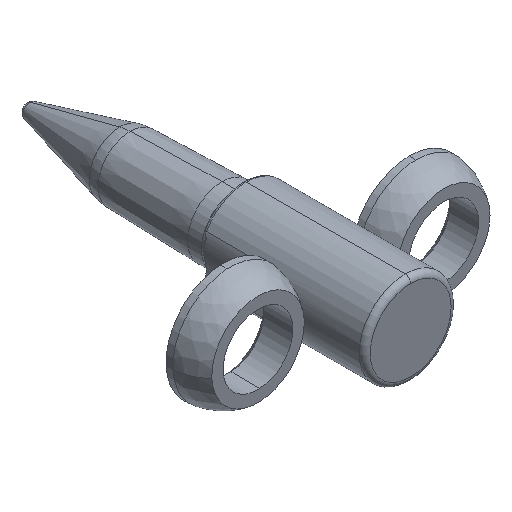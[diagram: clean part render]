
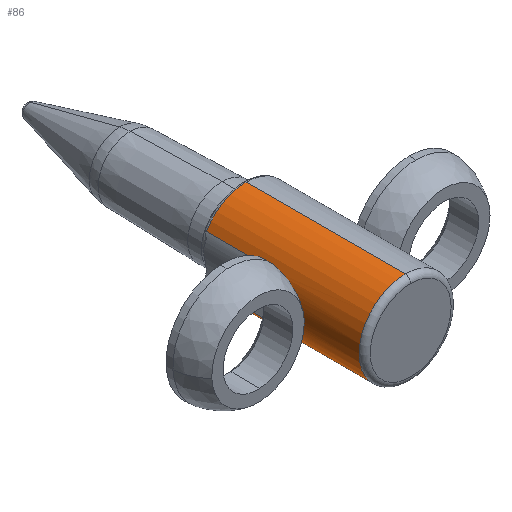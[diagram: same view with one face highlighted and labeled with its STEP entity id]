
A CAD part, isometric view. The second image highlights one B-rep face of the part: STEP entity #86.
In plain terms, the highlighted cylindrical face has radius 6.35 mm (diameter 12.7 mm), a partial arc.
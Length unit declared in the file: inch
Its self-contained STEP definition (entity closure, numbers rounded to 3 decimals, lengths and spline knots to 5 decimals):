
#35 = CYLINDRICAL_SURFACE ( 'NONE', #850, 0.25 ) ;
#40 = ORIENTED_EDGE ( 'NONE', *, *, #1221, .T. ) ;
#52 = CARTESIAN_POINT ( 'NONE',  ( -0.21585, -0.43438, -0.12613 ) ) ;
#84 = CARTESIAN_POINT ( 'NONE',  ( -0.21585, -0.45535, -0.12613 ) ) ;
#86 = ADVANCED_FACE ( 'NONE', ( #639 ), #35, .T. ) ;
#88 = CARTESIAN_POINT ( 'NONE',  ( -0.2344, -0.57139, -0.08721 ) ) ;
#100 = CARTESIAN_POINT ( 'NONE',  ( -0.24934, -0.61822, 0.02078 ) ) ;
#118 = DIRECTION ( 'NONE',  ( 0., 1., 0. ) ) ;
#151 = EDGE_CURVE ( 'NONE', #182, #505, #386, .T. ) ;
#154 = DIRECTION ( 'NONE',  ( 0., 1., 0. ) ) ;
#182 = VERTEX_POINT ( 'NONE', #1128 ) ;
#188 = DIRECTION ( 'NONE',  ( 0., 1., 0. ) ) ;
#193 = CARTESIAN_POINT ( 'NONE',  ( -0.21585, -0.43438, 0.12613 ) ) ;
#196 = CARTESIAN_POINT ( 'NONE',  ( 0., -0.055, 0.25 ) ) ;
#221 = ORIENTED_EDGE ( 'NONE', *, *, #864, .T. ) ;
#258 = DIRECTION ( 'NONE',  ( 0., 0., 1. ) ) ;
#305 = CARTESIAN_POINT ( 'NONE',  ( -0.22089, -0.5064, 0.1171 ) ) ;
#311 = VERTEX_POINT ( 'NONE', #375 ) ;
#320 = CARTESIAN_POINT ( 'NONE',  ( -0.25, -0.62, 0.01054 ) ) ;
#335 = B_SPLINE_CURVE_WITH_KNOTS ( 'NONE', 3,
 ( #1400, #1394, #738, #305, #753, #741, #1067, #1183, #525, #969, #1277, #1404, #626, #100, #320, #963 ),
 .UNSPECIFIED., .F., .F.,
 ( 4, 2, 2, 2, 2, 2, 2, 4 ),
 ( 0., 0.00158, 0.00238, 0.00317, 0.00396, 0.00475, 0.00554, 0.00634 ),
 .UNSPECIFIED. ) ;
#340 = VERTEX_POINT ( 'NONE', #52 ) ;
#375 = CARTESIAN_POINT ( 'NONE',  ( -0.21585, -0.055, -0.12613 ) ) ;
#377 = CARTESIAN_POINT ( 'NONE',  ( -0.25, -0.62, -0.00527 ) ) ;
#386 = LINE ( 'NONE', #532, #484 ) ;
#390 = CARTESIAN_POINT ( 'NONE',  ( -0.22087, -0.50625, -0.11714 ) ) ;
#391 = VECTOR ( 'NONE', #154, 39.37008 ) ;
#395 = CARTESIAN_POINT ( 'NONE',  ( -0.24109, -0.59408, -0.0667 ) ) ;
#409 = VECTOR ( 'NONE', #862, 39.37008 ) ;
#423 = VERTEX_POINT ( 'NONE', #1133 ) ;
#438 = DIRECTION ( 'NONE',  ( 0., 1., 0. ) ) ;
#479 = CARTESIAN_POINT ( 'NONE',  ( -0.2487, -0.61645, -0.0259 ) ) ;
#484 = VECTOR ( 'NONE', #782, 39.37008 ) ;
#499 = CARTESIAN_POINT ( 'NONE',  ( -0.23211, -0.56278, -0.09302 ) ) ;
#505 = VERTEX_POINT ( 'NONE', #193 ) ;
#510 = LINE ( 'NONE', #1172, #409 ) ;
#525 = CARTESIAN_POINT ( 'NONE',  ( -0.23443, -0.57152, 0.08712 ) ) ;
#532 = CARTESIAN_POINT ( 'NONE',  ( -0.21585, -0.16, 0.12613 ) ) ;
#534 = CIRCLE ( 'NONE', #685, 0.25 ) ;
#540 = ORIENTED_EDGE ( 'NONE', *, *, #711, .T. ) ;
#548 = DIRECTION ( 'NONE',  ( 0., 0., 1. ) ) ;
#575 = ORIENTED_EDGE ( 'NONE', *, *, #1007, .T. ) ;
#583 = CARTESIAN_POINT ( 'NONE',  ( -0.25, -0.62, 0. ) ) ;
#588 = ORIENTED_EDGE ( 'NONE', *, *, #151, .T. ) ;
#602 = AXIS2_PLACEMENT_3D ( 'NONE', #1205, #438, #548 ) ;
#611 = CARTESIAN_POINT ( 'NONE',  ( -0.21585, -0.43438, -0.12613 ) ) ;
#626 = CARTESIAN_POINT ( 'NONE',  ( -0.24687, -0.61133, 0.04068 ) ) ;
#639 = FACE_OUTER_BOUND ( 'NONE', #825, .T. ) ;
#646 = LINE ( 'NONE', #1169, #946 ) ;
#671 = CARTESIAN_POINT ( 'NONE',  ( 0., -0.055, 0. ) ) ;
#685 = AXIS2_PLACEMENT_3D ( 'NONE', #822, #816, #1252 ) ;
#700 = CARTESIAN_POINT ( 'NONE',  ( -0.24918, -0.61777, -0.02085 ) ) ;
#711 = EDGE_CURVE ( 'NONE', #311, #976, #1200, .T. ) ;
#727 = CARTESIAN_POINT ( 'NONE',  ( -0.22789, -0.54493, -0.10294 ) ) ;
#735 = CIRCLE ( 'NONE', #602, 0.25 ) ;
#738 = CARTESIAN_POINT ( 'NONE',  ( -0.21717, -0.47606, 0.12396 ) ) ;
#741 = CARTESIAN_POINT ( 'NONE',  ( -0.22594, -0.53575, 0.10707 ) ) ;
#748 = ORIENTED_EDGE ( 'NONE', *, *, #1135, .T. ) ;
#749 = EDGE_CURVE ( 'NONE', #953, #182, #534, .T. ) ;
#753 = CARTESIAN_POINT ( 'NONE',  ( -0.22244, -0.51645, 0.11418 ) ) ;
#782 = DIRECTION ( 'NONE',  ( 0., -1., 0. ) ) ;
#816 = DIRECTION ( 'NONE',  ( 0., -1., 0. ) ) ;
#822 = CARTESIAN_POINT ( 'NONE',  ( 0., -0.055, 0. ) ) ;
#825 = EDGE_LOOP ( 'NONE', ( #1324, #748, #938, #1190, #588, #575, #221, #40, #540 ) ) ;
#844 = CARTESIAN_POINT ( 'NONE',  ( -0.22592, -0.53562, -0.10713 ) ) ;
#850 = AXIS2_PLACEMENT_3D ( 'NONE', #982, #118, #1293 ) ;
#852 = CARTESIAN_POINT ( 'NONE',  ( -0.23888, -0.587, -0.07406 ) ) ;
#862 = DIRECTION ( 'NONE',  ( 0., 1., 0. ) ) ;
#864 = EDGE_CURVE ( 'NONE', #423, #340, #1072, .T. ) ;
#887 = VERTEX_POINT ( 'NONE', #1373 ) ;
#927 = EDGE_CURVE ( 'NONE', #975, #976, #646, .T. ) ;
#936 = CARTESIAN_POINT ( 'NONE',  ( 0., -0.92, -0.25 ) ) ;
#938 = ORIENTED_EDGE ( 'NONE', *, *, #1025, .T. ) ;
#946 = VECTOR ( 'NONE', #188, 39.37008 ) ;
#950 = CARTESIAN_POINT ( 'NONE',  ( -0.24512, -0.60633, -0.04992 ) ) ;
#953 = VERTEX_POINT ( 'NONE', #196 ) ;
#963 = CARTESIAN_POINT ( 'NONE',  ( -0.25, -0.62, 0. ) ) ;
#969 = CARTESIAN_POINT ( 'NONE',  ( -0.23892, -0.58713, 0.07394 ) ) ;
#975 = VERTEX_POINT ( 'NONE', #936 ) ;
#976 = VERTEX_POINT ( 'NONE', #1291 ) ;
#982 = CARTESIAN_POINT ( 'NONE',  ( 0., -0.95, 0. ) ) ;
#1007 = EDGE_CURVE ( 'NONE', #505, #423, #335, .T. ) ;
#1010 = AXIS2_PLACEMENT_3D ( 'NONE', #671, #1121, #258 ) ;
#1025 = EDGE_CURVE ( 'NONE', #887, #953, #510, .T. ) ;
#1053 = CARTESIAN_POINT ( 'NONE',  ( -0.24685, -0.61128, -0.04077 ) ) ;
#1061 = CARTESIAN_POINT ( 'NONE',  ( -0.21716, -0.47595, -0.12397 ) ) ;
#1067 = CARTESIAN_POINT ( 'NONE',  ( -0.22792, -0.54506, 0.10288 ) ) ;
#1072 = B_SPLINE_CURVE_WITH_KNOTS ( 'NONE', 3,
 ( #583, #377, #1353, #700, #479, #1053, #950, #395, #852, #88, #499, #727, #844, #1263, #390, #1061, #84, #611 ),
 .UNSPECIFIED., .F., .F.,
 ( 4, 2, 2, 2, 2, 2, 2, 2, 4 ),
 ( 0.00634, 0.00673, 0.00713, 0.00792, 0.00871, 0.0095, 0.01029, 0.01108, 0.01267 ),
 .UNSPECIFIED. ) ;
#1121 = DIRECTION ( 'NONE',  ( 0., -1., 0. ) ) ;
#1128 = CARTESIAN_POINT ( 'NONE',  ( -0.21585, -0.055, 0.12613 ) ) ;
#1133 = CARTESIAN_POINT ( 'NONE',  ( -0.25, -0.62, 0. ) ) ;
#1135 = EDGE_CURVE ( 'NONE', #975, #887, #735, .T. ) ;
#1169 = CARTESIAN_POINT ( 'NONE',  ( 0., -0.95, -0.25 ) ) ;
#1172 = CARTESIAN_POINT ( 'NONE',  ( 0., -0.95, 0.25 ) ) ;
#1183 = CARTESIAN_POINT ( 'NONE',  ( -0.23215, -0.56292, 0.09293 ) ) ;
#1190 = ORIENTED_EDGE ( 'NONE', *, *, #749, .T. ) ;
#1200 = CIRCLE ( 'NONE', #1010, 0.25 ) ;
#1205 = CARTESIAN_POINT ( 'NONE',  ( 0., -0.92, 0. ) ) ;
#1220 = CARTESIAN_POINT ( 'NONE',  ( -0.21585, -0.16, -0.12613 ) ) ;
#1221 = EDGE_CURVE ( 'NONE', #340, #311, #1276, .T. ) ;
#1252 = DIRECTION ( 'NONE',  ( 0., 0., 1. ) ) ;
#1263 = CARTESIAN_POINT ( 'NONE',  ( -0.22241, -0.51631, -0.11423 ) ) ;
#1276 = LINE ( 'NONE', #1220, #391 ) ;
#1277 = CARTESIAN_POINT ( 'NONE',  ( -0.24115, -0.59425, 0.0665 ) ) ;
#1291 = CARTESIAN_POINT ( 'NONE',  ( 0., -0.055, -0.25 ) ) ;
#1293 = DIRECTION ( 'NONE',  ( 0., 0., 1. ) ) ;
#1324 = ORIENTED_EDGE ( 'NONE', *, *, #927, .F. ) ;
#1353 = CARTESIAN_POINT ( 'NONE',  ( -0.24983, -0.61954, -0.01056 ) ) ;
#1373 = CARTESIAN_POINT ( 'NONE',  ( 0., -0.92, 0.25 ) ) ;
#1394 = CARTESIAN_POINT ( 'NONE',  ( -0.21585, -0.45541, 0.12613 ) ) ;
#1400 = CARTESIAN_POINT ( 'NONE',  ( -0.21585, -0.43438, 0.12613 ) ) ;
#1404 = CARTESIAN_POINT ( 'NONE',  ( -0.24515, -0.60642, 0.04976 ) ) ;
